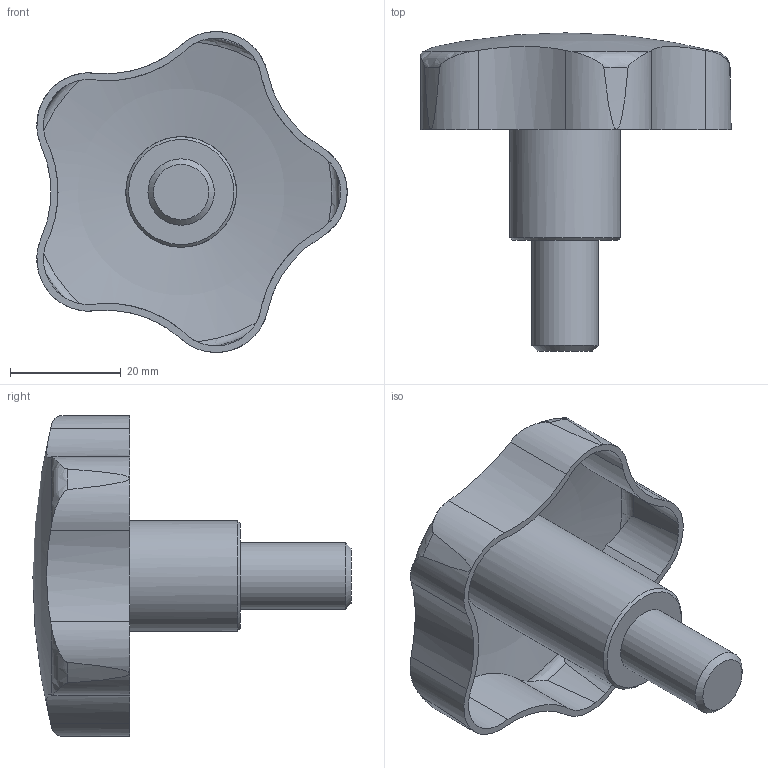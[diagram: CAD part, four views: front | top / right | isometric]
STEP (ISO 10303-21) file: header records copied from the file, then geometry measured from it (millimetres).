
FILE_DESCRIPTION( ( 'STEP AP203' ), '1' );
FILE_NAME( 'C:/Temp/Ganter_Step_05_03_2020/data/2_2/gn_5334_4/gn5334_4_2/Stainless Steel-Star knob with threaded bolt AISI 316L (A4) GN 5334.4-60-M12-20.stp', '2020-03-05T12:08:36', ( 'License CC BY-ND 4.0' ), ( 'CADENAS' ), ' ', 'PARTsolutions', ' ' );
FILE_SCHEMA( ( 'CONFIG_CONTROL_DESIGN' ) );
Length unit declared in the file: millimetre
Products named in the file (1): _Stainless Steel-Star knob with threaded bolt AISI 316L (A4) GN 5334.4-60-M12-20
Bounding box: 56.08 x 57.5 x 57.99 mm (x, y, z)
Volume: 19251.8 mm3; surface area: 12417.4 mm2
Topology: 1 solids, 1 shells, 59 faces, 160 edges, 104 vertices
Faces by surface type: cylinder 32, cone 12, torus 10, plane 3, sphere 2
Full cylindrical faces by diameter (mm): 12 x1, 20 x1
Entity records: 2446 total; most frequent: CARTESIAN_POINT 1037, ORIENTED_EDGE 302, DIRECTION 262, EDGE_CURVE 151, AXIS2_PLACEMENT_3D 121, VERTEX_POINT 102, B_SPLINE_CURVE_WITH_KNOTS 70, EDGE_LOOP 66
